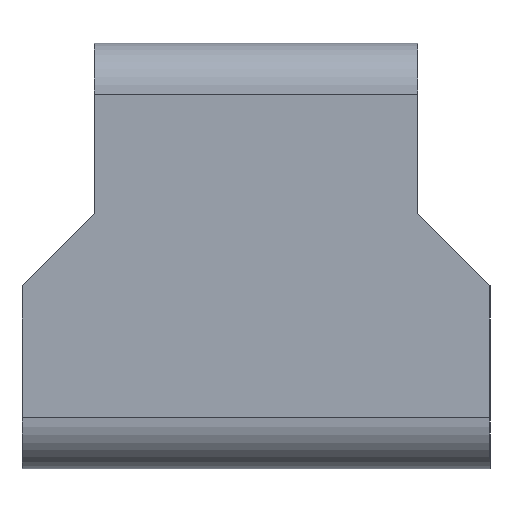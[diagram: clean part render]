
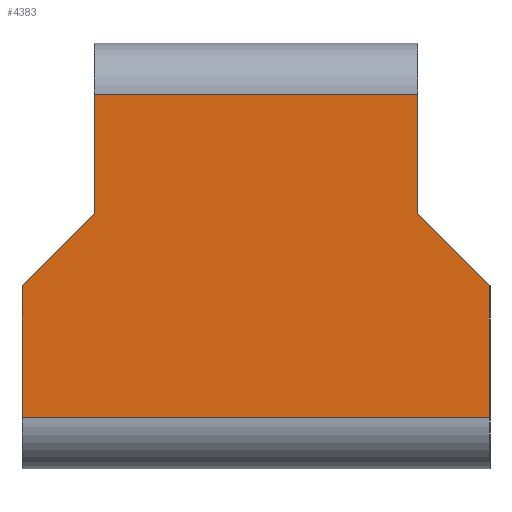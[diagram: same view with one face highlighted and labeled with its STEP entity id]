
A CAD part, left-side view. The second image highlights one B-rep face of the part: STEP entity #4383.
In plain terms, the highlighted planar face has unit normal (-1, 0, 0).
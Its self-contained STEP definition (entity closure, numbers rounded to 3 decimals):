
#94=DIRECTION('',(0.,0.,1.));
#95=VECTOR('',#94,15.5);
#96=CARTESIAN_POINT('',(0.,0.,-44.));
#97=LINE('',#96,#95);
#450=DIRECTION('',(0.,0.,1.));
#451=VECTOR('',#450,15.5);
#452=CARTESIAN_POINT('',(0.,55.,-44.));
#453=LINE('',#452,#451);
#1168=DIRECTION('',(0.,0.,-1.));
#1169=VECTOR('',#1168,14.);
#1170=CARTESIAN_POINT('',(0.,46.5,-6.));
#1171=LINE('',#1170,#1169);
#1172=DIRECTION('',(0.,0.,-1.));
#1173=VECTOR('',#1172,14.);
#1174=CARTESIAN_POINT('',(0.,8.5,-6.));
#1175=LINE('',#1174,#1173);
#1176=DIRECTION('',(0.,-0.707,-0.707));
#1177=VECTOR('',#1176,12.021);
#1178=CARTESIAN_POINT('',(0.,8.5,-20.));
#1179=LINE('',#1178,#1177);
#1180=DIRECTION('',(0.,-0.707,0.707));
#1181=VECTOR('',#1180,12.021);
#1182=CARTESIAN_POINT('',(0.,55.,-28.5));
#1183=LINE('',#1182,#1181);
#1188=DIRECTION('',(0.,1.,0.));
#1189=VECTOR('',#1188,38.);
#1190=CARTESIAN_POINT('',(0.,8.5,-6.));
#1191=LINE('',#1190,#1189);
#1468=DIRECTION('',(0.,1.,0.));
#1469=VECTOR('',#1468,55.);
#1470=CARTESIAN_POINT('',(0.,0.,-44.));
#1471=LINE('',#1470,#1469);
#2762=CARTESIAN_POINT('',(0.,0.,-44.));
#2763=CARTESIAN_POINT('',(0.,55.,-44.));
#2764=VERTEX_POINT('',#2762);
#2765=VERTEX_POINT('',#2763);
#2850=CARTESIAN_POINT('',(0.,46.5,-6.));
#2851=CARTESIAN_POINT('',(0.,46.5,-20.));
#2852=VERTEX_POINT('',#2850);
#2853=VERTEX_POINT('',#2851);
#2854=CARTESIAN_POINT('',(0.,8.5,-6.));
#2855=CARTESIAN_POINT('',(0.,8.5,-20.));
#2856=VERTEX_POINT('',#2854);
#2857=VERTEX_POINT('',#2855);
#2906=CARTESIAN_POINT('',(0.,0.,-28.5));
#2907=VERTEX_POINT('',#2906);
#2908=CARTESIAN_POINT('',(0.,55.,-28.5));
#2909=VERTEX_POINT('',#2908);
#4363=CARTESIAN_POINT('',(0.,0.,-50.));
#4364=DIRECTION('',(-1.,0.,0.));
#4365=DIRECTION('',(0.,0.,1.));
#4366=AXIS2_PLACEMENT_3D('',#4363,#4364,#4365);
#4367=PLANE('',#4366);
#4368=ORIENTED_EDGE('',*,*,#4337,.F.);
#4370=ORIENTED_EDGE('',*,*,#4369,.F.);
#4372=ORIENTED_EDGE('',*,*,#4371,.T.);
#4374=ORIENTED_EDGE('',*,*,#4373,.T.);
#4375=ORIENTED_EDGE('',*,*,#3449,.F.);
#4377=ORIENTED_EDGE('',*,*,#4376,.T.);
#4378=ORIENTED_EDGE('',*,*,#3886,.T.);
#4380=ORIENTED_EDGE('',*,*,#4379,.T.);
#4381=EDGE_LOOP('',(#4368,#4370,#4372,#4374,#4375,#4377,#4378,#4380));
#4382=FACE_OUTER_BOUND('',#4381,.F.);
#4383=ADVANCED_FACE('',(#4382),#4367,.T.);
#3449=EDGE_CURVE('',#2764,#2907,#97,.T.);
#3886=EDGE_CURVE('',#2765,#2909,#453,.T.);
#4337=EDGE_CURVE('',#2852,#2853,#1171,.T.);
#4369=EDGE_CURVE('',#2856,#2852,#1191,.T.);
#4371=EDGE_CURVE('',#2856,#2857,#1175,.T.);
#4373=EDGE_CURVE('',#2857,#2907,#1179,.T.);
#4376=EDGE_CURVE('',#2764,#2765,#1471,.T.);
#4379=EDGE_CURVE('',#2909,#2853,#1183,.T.);
